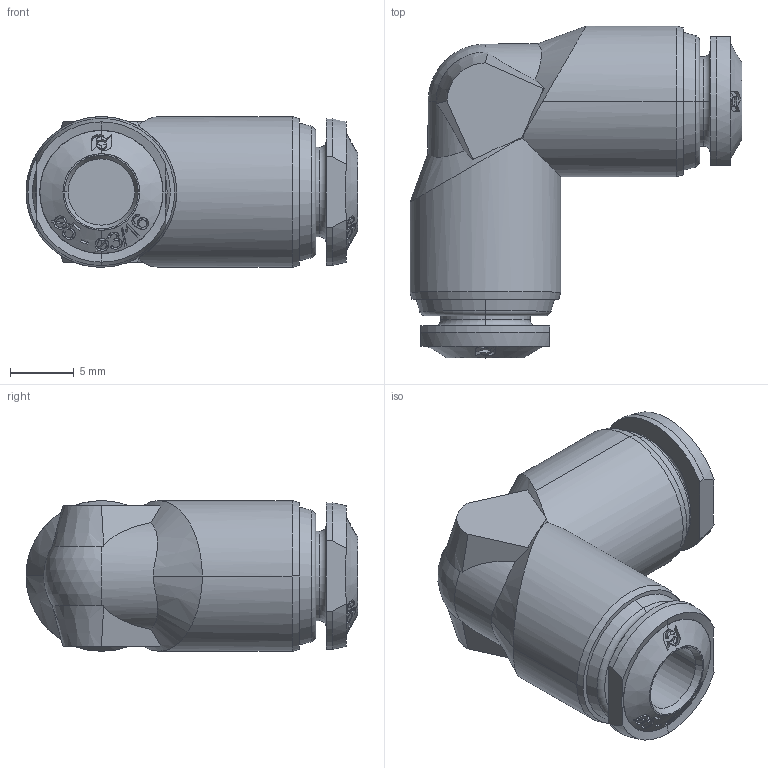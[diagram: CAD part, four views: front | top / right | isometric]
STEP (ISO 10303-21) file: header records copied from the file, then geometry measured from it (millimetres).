
FILE_DESCRIPTION (( 'STEP AP214' ), '1' );
FILE_NAME ('5513000003.step', '2012-10-02T17:37:42', ( '' ), ( '' ), 'SwSTEP 2.0', 'SolidWorks 2012', '' );
FILE_SCHEMA (( 'AUTOMOTIVE_DESIGN' ));
Length unit declared in the file: millimetre
Products named in the file (1): 5513000003
Bounding box: 26 x 26 x 11.8 mm (x, y, z)
Volume: 3497.4 mm3; surface area: 2014.1 mm2
Topology: 1 solids, 1 shells, 403 faces, 1104 edges, 733 vertices
Faces by surface type: bspline 256, cone 70, plane 32, cylinder 24, torus 20, sphere 1
Entity records: 31205 total; most frequent: CARTESIAN_POINT 18931, ORIENTED_EDGE 2208, EDGE_CURVE 1104, B_SPLINE_CURVE_WITH_KNOTS 878, VERTEX_POINT 733, DIRECTION 632, EDGE_LOOP 433, UNCERTAINTY_MEASURE_WITH_UNIT 406
